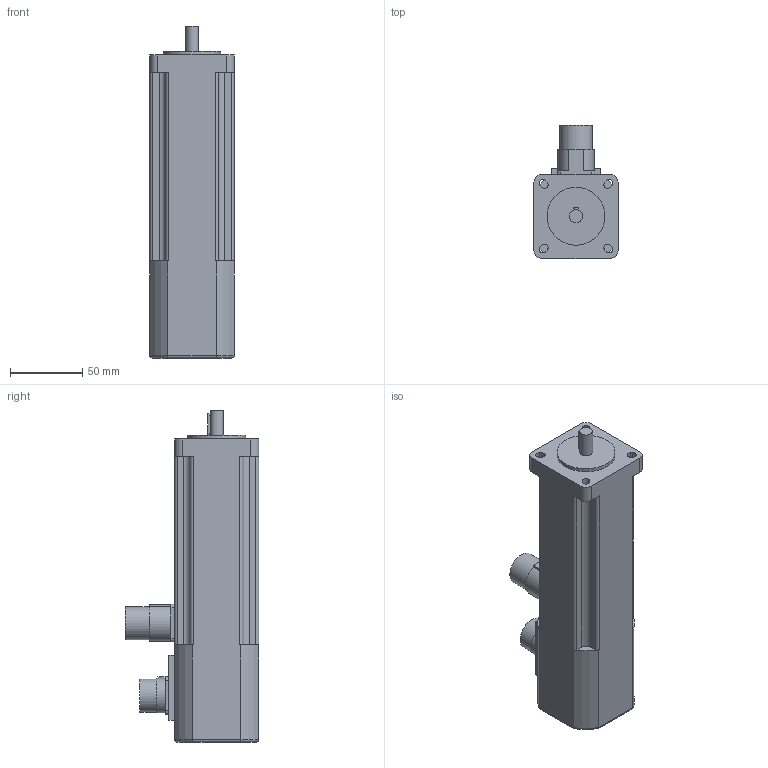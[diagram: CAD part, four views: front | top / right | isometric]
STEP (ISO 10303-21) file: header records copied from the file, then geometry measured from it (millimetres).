
FILE_DESCRIPTION(/* description */ (''),/* implementation_level */ '2;1');
FILE_NAME(/* name */ '\\Lafnas01\disegni\Archivi Lafert\3D\CAD 3D\MODELLI\Assiemi clienti\Serad\Modelli 3D Serad\B28I\Encoder\Enc Without Brake\B2801Ixx4ARx0033.ipt.stp',/* time_stamp */ '2015-09-07T10:48:00+02:00',/* author */ ('Pastrello Ylenia'),/* organization */ (''),/* preprocessor_version */ 'ST-DEVELOPER v15.6',/* originating_system */ 'Autodesk Inventor 2015',/* authorisation */ '');
FILE_SCHEMA (('AUTOMOTIVE_DESIGN { 1 0 10303 214 3 1 1 }'));
Length unit declared in the file: millimetre
Products named in the file (1): B2801Ixx4ARx0033
Bounding box: 58 x 92 x 229 mm (x, y, z)
Volume: 658020.2 mm3; surface area: 58399.7 mm2
Topology: 1 solids, 1 shells, 138 faces, 368 edges, 239 vertices
Faces by surface type: plane 76, cylinder 58, torus 4
Full cylindrical faces by diameter (mm): 9 x1, 22.7 x2, 24 x1, 40 x1
Entity records: 4389 total; most frequent: CARTESIAN_POINT 872, DIRECTION 741, ORIENTED_EDGE 720, EDGE_CURVE 359, AXIS2_PLACEMENT_3D 255, VERTEX_POINT 236, LINE 231, VECTOR 231
